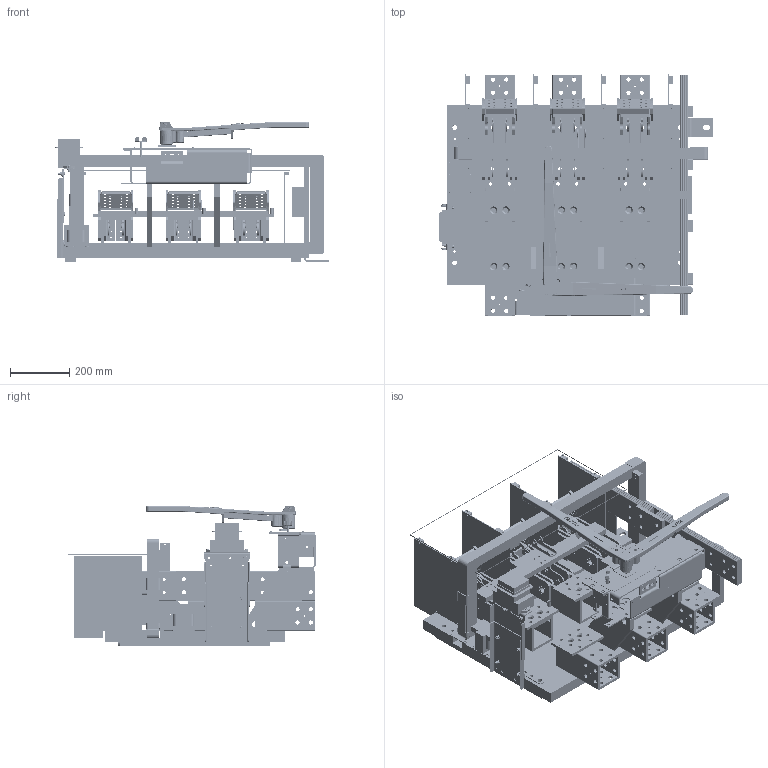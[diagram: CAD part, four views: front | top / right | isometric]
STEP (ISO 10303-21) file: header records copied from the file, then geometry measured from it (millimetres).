
FILE_DESCRIPTION(/* description */ (''),/* implementation_level */ '2;1');
FILE_NAME(/* name */ 'H:\switches\3d-templates\catalog-switches-iges-files\CATALOG-SL3613G6.stp',/* time_stamp */ '2022-03-21T13:39:51-05:00',/* author */ ('MKingston'),/* organization */ (''),/* preprocessor_version */ 'ST-DEVELOPER v18.1',/* originating_system */ 'Autodesk Inventor 2022',/* authorisation */ '');
FILE_SCHEMA (('AUTOMOTIVE_DESIGN { 1 0 10303 214 3 1 1 }'));
Products named in the file (63): CATALOG-SL3613; 701; 708-arc-chute-assy; 50-ql; 50-qr; 709; 702; 703; 704; 248-A; CATALOG-4000-blade-assy; 705-b; 705-a; 705-c; 67-j; 69-gc3; 69-gd3; 67-fc3; 236-b; 50-g; 255-q; sl-interpole-barrier-assy; 255-p; 178-c; 178-b; 672-a; 221-kpa; 452; 481-a; gfr-1-mounting-assembly; 277-L1T; 277-l2; 277-l3; 277-l4; gfr-1; Bolted Connection; ANSI B18.6.3 - 10 - 32 x 7/8 SR HMS; ANSI B18.22.1 - No. 10 - Type A; ASME B18.21.1 - No. 10. Carbon Steel, ETLWTB(1); ANSI B18.2.2 - 10 - 32, HMSNI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
Assembly tree (127 placements, depth 4):
  CATALOG-SL3613
    701  x3
    708-arc-chute-assy  x3
      50-ql
      50-qr
      709
    702  x3
    703  x3
    704  x6
    248-A  x2
    CATALOG-4000-blade-assy  x3
      705-c
      705-b
      67-j
      705-a
      67-fc3
      69-gc3
      69-gd3
    236-b
    50-g
    sl-interpole-barrier-assy  x4
      255-p
      178-b
      178-c
    255-q
    672-a  x2
    221-kpa
    452
    481-a
    gfr-1-mounting-assembly
      277-L1T
      277-l2
      277-l3
      277-l4
      gfr-1
      Bolted Connection
        ANSI B18.22.1 - No. 10 - Type A  x4
        ASME B18.21.1 - No. 10. Carbon Steel, ETLWTB(1)  x4
        ANSI B18.6.3 - 10 - 32 x 7/8 SR HMS  x2
        ANSI B18.2.2 - 10 - 32, HMSNI  x2
      Bolted Connection_1
        ANSI B18.5 - 1/4-20 UNC - 0.75, RHBI  x6
        ASTM F436 - 1/4, CW  x6
        ASME B18.21.1 - 1/4. Carbon Steel, HITLWTB(1)  x6
        ANSI B18.2.2 - 1/4 - 20, HNI  x6
    sl-slb-gfi-ring-assembly
      GFS10X30
      277-ma
    800-bck2
    800-fck-1
    transformer
    4000-SL-NEUTRAL
      676-x  x8
      677-g  x2
      675-h  x3
      675-ja
      678-s
    672-E
    67-ZBA  x3
    223-FE
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Bounding box: 926.24 x 836.4 x 472.64 mm (x, y, z)
Volume: 38720564.5 mm3; surface area: 6715249.1 mm2
Topology: 164 solids, 165 shells, 5242 faces, 13745 edges, 8963 vertices
Faces by surface type: plane 2463, cylinder 2337, cone 225, bspline 147, torus 62, sphere 8
Full cylindrical faces by diameter (mm): 1.702 x8, 3.302 x14, 3.581 x2, 3.658 x22, 3.683 x8, 3.962 x11, 4.089 x4, 4.343 x84, 4.366 x2, 4.496 x36, 4.653 x4, 4.762 x4, 4.775 x8, 4.801 x8, 4.826 x2, 4.902 x14, 4.915 x16, 4.953 x4, 4.978 x36, 5.462 x4, 5.537 x3, 5.556 x3, 5.563 x10, 5.791 x12, 6.35 x20, 6.528 x55, 7.137 x8, 7.144 x28, 7.798 x4, 7.938 x7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
Entity records: 93569 total; most frequent: CARTESIAN_POINT 24104, DIRECTION 13867, ORIENTED_EDGE 13564, EDGE_CURVE 6790, AXIS2_PLACEMENT_3D 4921, VERTEX_POINT 4400, LINE 4025, VECTOR 4025
